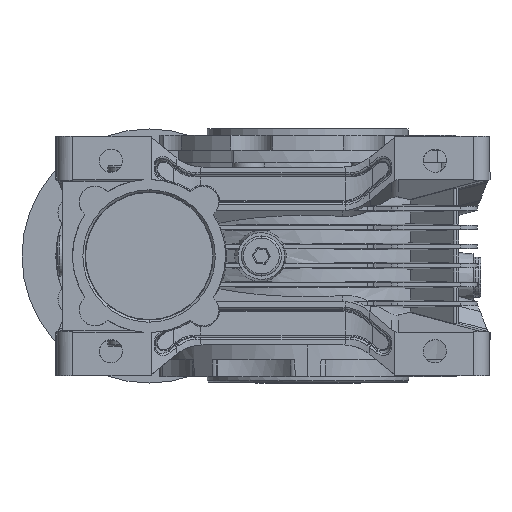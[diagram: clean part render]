
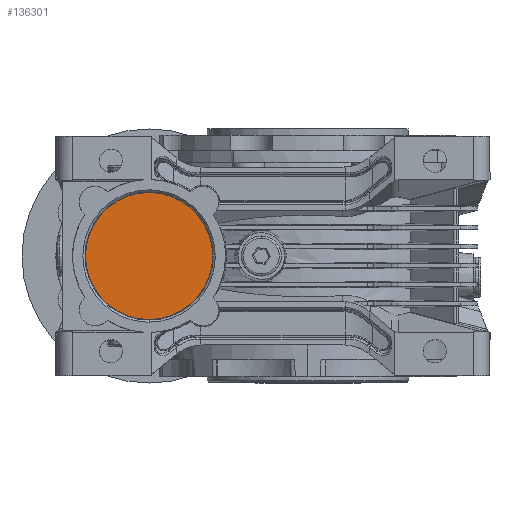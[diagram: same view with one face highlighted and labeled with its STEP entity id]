
A CAD part, front view. The second image highlights one B-rep face of the part: STEP entity #136301.
In plain terms, the highlighted planar face has unit normal (0, -1, 0).
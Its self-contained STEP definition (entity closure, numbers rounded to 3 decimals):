
#22286 = PLANE ( 'NONE',  #54271 ) ;
#25158 = CARTESIAN_POINT ( 'NONE',  ( -75., -86., 0. ) ) ;
#29423 = CARTESIAN_POINT ( 'NONE',  ( -75., -86., 30.02 ) ) ;
#35818 = DIRECTION ( 'NONE',  ( 0., 0., -1. ) ) ;
#36495 = AXIS2_PLACEMENT_3D ( 'NONE', #25158, #99127, #35818 ) ;
#43573 = CARTESIAN_POINT ( 'NONE',  ( -75., -86., 0. ) ) ;
#54181 = DIRECTION ( 'NONE',  ( 0., -1., 0. ) ) ;
#54271 = AXIS2_PLACEMENT_3D ( 'NONE', #43573, #54181, #128076 ) ;
#56027 = EDGE_LOOP ( 'NONE', ( #118150, #114170 ) ) ;
#57975 = CARTESIAN_POINT ( 'NONE',  ( -75., -86., 0. ) ) ;
#68596 = DIRECTION ( 'NONE',  ( 0., 0., -1. ) ) ;
#72536 = FACE_OUTER_BOUND ( 'NONE', #56027, .T. ) ;
#84408 = CIRCLE ( 'NONE', #36495, 30.02 ) ;
#99127 = DIRECTION ( 'NONE',  ( 0., -1., 0. ) ) ;
#110895 = CARTESIAN_POINT ( 'NONE',  ( -75., -86., -30.02 ) ) ;
#111053 = VERTEX_POINT ( 'NONE', #110895 ) ;
#114170 = ORIENTED_EDGE ( 'NONE', *, *, #118070, .T. ) ;
#118070 = EDGE_CURVE ( 'NONE', #125450, #111053, #131859, .T. ) ;
#118150 = ORIENTED_EDGE ( 'NONE', *, *, #134702, .T. ) ;
#125450 = VERTEX_POINT ( 'NONE', #29423 ) ;
#128076 = DIRECTION ( 'NONE',  ( 0., 0., -1. ) ) ;
#131859 = CIRCLE ( 'NONE', #135395, 30.02 ) ;
#131868 = DIRECTION ( 'NONE',  ( 0., -1., 0. ) ) ;
#134702 = EDGE_CURVE ( 'NONE', #111053, #125450, #84408, .T. ) ;
#135395 = AXIS2_PLACEMENT_3D ( 'NONE', #57975, #131868, #68596 ) ;
#136301 = ADVANCED_FACE ( 'NONE', ( #72536 ), #22286, .T. ) ;
